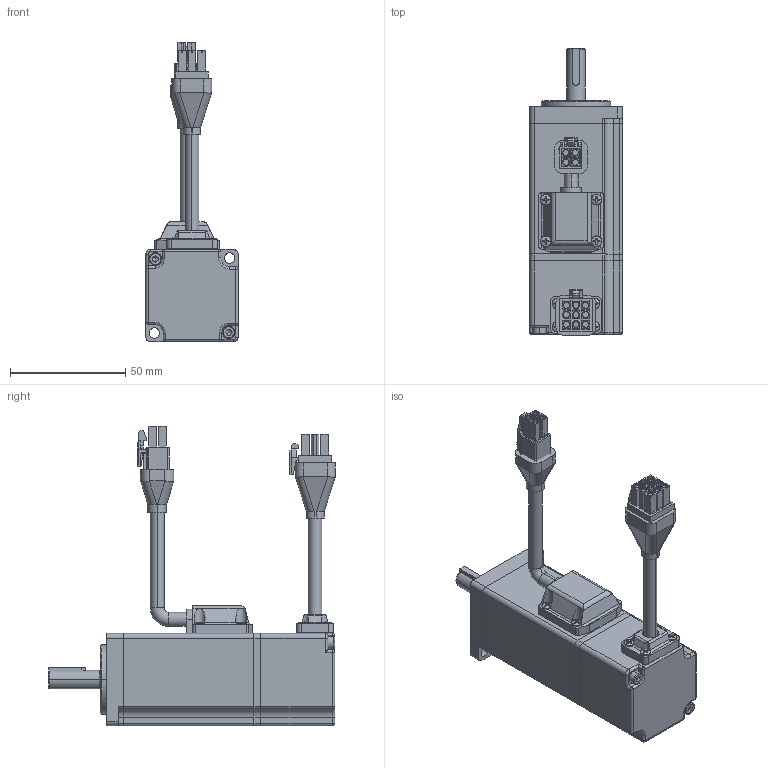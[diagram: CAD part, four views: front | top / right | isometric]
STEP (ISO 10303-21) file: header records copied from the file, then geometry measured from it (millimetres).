
FILE_DESCRIPTION((''),'2;1');
FILE_NAME('R40-100W_ASM','2018-11-26T',('JIANGFEI6'),(''),'CREO PARAMETRIC BY PTC INC, 2015480','CREO PARAMETRIC BY PTC INC, 2015480','');
FILE_SCHEMA(('CONFIG_CONTROL_DESIGN'));
Length unit declared in the file: millimetre
Products named in the file (20): __-2087; _____-5819; ______-7593; _____-14857; M2_5X5; ______-16601; ___-18669; M3X10; ____; __-24117; ______-26585; ________; ______-32745; _______; M3X28; ___-36193; ___-37449; ROLLING_BEARINGS_609_GB_276-94; R40_; R40-100W_ASM
Assembly tree (28 placements, depth 2):
  R40-100W_ASM
    __-2087
    _____-5819
    ______-7593
    _____-14857
    M2_5X5  x8
    ______-16601
    ___-18669
    M3X10  x2
    ____
    __-24117
    ______-26585
    ________
    ______-32745
    _______
    M3X28  x2
    ___-36193
    ___-37449
    ROLLING_BEARINGS_609_GB_276-94
    R40_
Bounding box: 40 x 124.36 x 129.8 mm (x, y, z)
Volume: 41668.7 mm3; surface area: 63488.8 mm2
Topology: 25 solids, 52 shells, 1346 faces, 3807 edges, 2479 vertices
Faces by surface type: plane 627, cylinder 488, torus 90, cone 85, sphere 54, bspline 2
Entity records: 38743 total; most frequent: CARTESIAN_POINT 9159, DIRECTION 6112, ORIENTED_EDGE 5899, EDGE_CURVE 3163, AXIS2_PLACEMENT_3D 2194, VERTEX_POINT 2105, VECTOR 1724, LINE 1724
